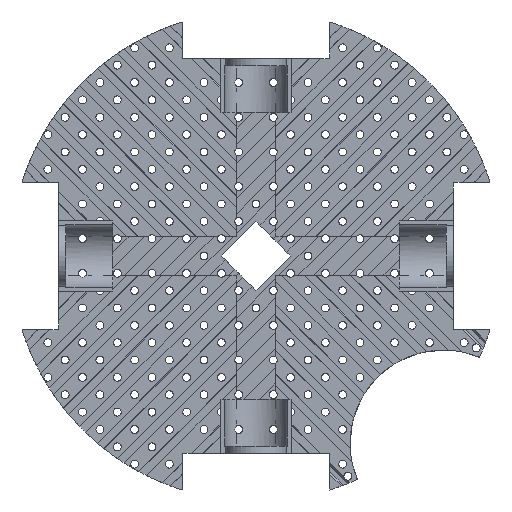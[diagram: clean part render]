
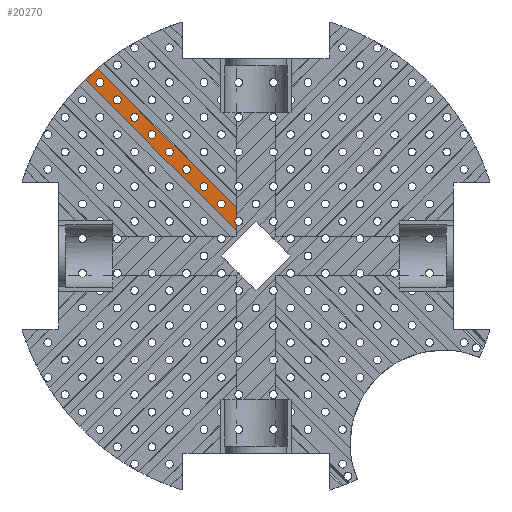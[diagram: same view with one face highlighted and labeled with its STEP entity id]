
A CAD part, front view. The second image highlights one B-rep face of the part: STEP entity #20270.
In plain terms, the highlighted planar face has unit normal (0, -1, 0).
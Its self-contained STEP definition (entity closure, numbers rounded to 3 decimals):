
#95=FACE_BOUND('',#2409,.T.);
#96=FACE_BOUND('',#2410,.T.);
#97=FACE_BOUND('',#2411,.T.);
#98=FACE_BOUND('',#2412,.T.);
#99=FACE_BOUND('',#2413,.T.);
#100=FACE_BOUND('',#2414,.T.);
#101=FACE_BOUND('',#2415,.T.);
#102=FACE_BOUND('',#2416,.T.);
#665=PLANE('',#21486);
#1412=FACE_OUTER_BOUND('',#2408,.T.);
#2408=EDGE_LOOP('',(#14727,#14728,#14729,#14730,#14731,#14732));
#2409=EDGE_LOOP('',(#14733));
#2410=EDGE_LOOP('',(#14734));
#2411=EDGE_LOOP('',(#14735));
#2412=EDGE_LOOP('',(#14736));
#2413=EDGE_LOOP('',(#14737));
#2414=EDGE_LOOP('',(#14738));
#2415=EDGE_LOOP('',(#14739));
#2416=EDGE_LOOP('',(#14740));
#3692=LINE('',#29494,#5618);
#3693=LINE('',#29499,#5619);
#3921=LINE('',#30437,#5847);
#3935=LINE('',#30472,#5861);
#5618=VECTOR('',#23422,10.);
#5619=VECTOR('',#23427,10.);
#5847=VECTOR('',#24179,10.);
#5861=VECTOR('',#24207,10.);
#7494=CIRCLE('',#21158,1.6);
#7495=CIRCLE('',#21160,1.6);
#7515=CIRCLE('',#21230,1.6);
#7529=CIRCLE('',#21251,1.6);
#7543=CIRCLE('',#21272,1.6);
#7557=CIRCLE('',#21293,1.6);
#7574=CIRCLE('',#21335,100.);
#7630=CIRCLE('',#21487,1.6);
#7631=CIRCLE('',#21488,1.6);
#7632=CIRCLE('',#21489,1.6);
#8685=VERTEX_POINT('',#29490);
#8686=VERTEX_POINT('',#29492);
#8687=VERTEX_POINT('',#29496);
#8688=VERTEX_POINT('',#29498);
#8690=VERTEX_POINT('',#29504);
#8691=VERTEX_POINT('',#29508);
#8763=VERTEX_POINT('',#29712);
#8778=VERTEX_POINT('',#29757);
#8792=VERTEX_POINT('',#29799);
#8806=VERTEX_POINT('',#29841);
#8960=VERTEX_POINT('',#30434);
#8975=VERTEX_POINT('',#30471);
#9050=VERTEX_POINT('',#30706);
#9051=VERTEX_POINT('',#30708);
#10764=EDGE_CURVE('',#8686,#8685,#3692,.T.);
#10766=EDGE_CURVE('',#8688,#8687,#3693,.T.);
#10770=EDGE_CURVE('',#8690,#8690,#7494,.T.);
#10772=EDGE_CURVE('',#8691,#8691,#7495,.T.);
#10872=EDGE_CURVE('',#8763,#8763,#7515,.T.);
#10895=EDGE_CURVE('',#8778,#8778,#7529,.T.);
#10916=EDGE_CURVE('',#8792,#8792,#7543,.T.);
#10937=EDGE_CURVE('',#8806,#8806,#7557,.T.);
#10998=EDGE_CURVE('',#8687,#8685,#7574,.T.);
#11154=EDGE_CURVE('',#8686,#8960,#3921,.T.);
#11172=EDGE_CURVE('',#8975,#8688,#3935,.T.);
#11292=EDGE_CURVE('',#8975,#8960,#7630,.T.);
#11293=EDGE_CURVE('',#9050,#9050,#7631,.T.);
#11294=EDGE_CURVE('',#9051,#9051,#7632,.T.);
#14727=ORIENTED_EDGE('',*,*,#11292,.F.);
#14728=ORIENTED_EDGE('',*,*,#11172,.T.);
#14729=ORIENTED_EDGE('',*,*,#10766,.T.);
#14730=ORIENTED_EDGE('',*,*,#10998,.T.);
#14731=ORIENTED_EDGE('',*,*,#10764,.F.);
#14732=ORIENTED_EDGE('',*,*,#11154,.T.);
#14733=ORIENTED_EDGE('',*,*,#10772,.F.);
#14734=ORIENTED_EDGE('',*,*,#10770,.F.);
#14735=ORIENTED_EDGE('',*,*,#10895,.F.);
#14736=ORIENTED_EDGE('',*,*,#10916,.F.);
#14737=ORIENTED_EDGE('',*,*,#10937,.F.);
#14738=ORIENTED_EDGE('',*,*,#11293,.F.);
#14739=ORIENTED_EDGE('',*,*,#10872,.F.);
#14740=ORIENTED_EDGE('',*,*,#11294,.F.);
#20270=ADVANCED_FACE('',(#1412,#95,#96,#97,#98,#99,#100,#101,#102),#665,
 .T.);
#21158=AXIS2_PLACEMENT_3D('',#29506,#23434,#23435);
#21160=AXIS2_PLACEMENT_3D('',#29510,#23439,#23440);
#21230=AXIS2_PLACEMENT_3D('',#29714,#23641,#23642);
#21251=AXIS2_PLACEMENT_3D('',#29759,#23692,#23693);
#21272=AXIS2_PLACEMENT_3D('',#29801,#23741,#23742);
#21293=AXIS2_PLACEMENT_3D('',#29843,#23790,#23791);
#21335=AXIS2_PLACEMENT_3D('',#29980,#23913,#23914);
#21486=AXIS2_PLACEMENT_3D('',#30704,#24426,#24427);
#21487=AXIS2_PLACEMENT_3D('',#30705,#24428,#24429);
#21488=AXIS2_PLACEMENT_3D('',#30707,#24430,#24431);
#21489=AXIS2_PLACEMENT_3D('',#30709,#24432,#24433);
#23422=DIRECTION('',(-0.707,0.,0.707));
#23427=DIRECTION('',(-0.707,0.,0.707));
#23434=DIRECTION('center_axis',(0.,-1.,0.));
#23435=DIRECTION('ref_axis',(-0.707,0.,-0.707));
#23439=DIRECTION('center_axis',(0.,-1.,0.));
#23440=DIRECTION('ref_axis',(-0.707,0.,-0.707));
#23641=DIRECTION('center_axis',(0.,-1.,0.));
#23642=DIRECTION('ref_axis',(-0.707,0.,-0.707));
#23692=DIRECTION('center_axis',(0.,-1.,0.));
#23693=DIRECTION('ref_axis',(-0.707,0.,-0.707));
#23741=DIRECTION('center_axis',(0.,-1.,0.));
#23742=DIRECTION('ref_axis',(-0.707,0.,-0.707));
#23790=DIRECTION('center_axis',(0.,-1.,0.));
#23791=DIRECTION('ref_axis',(-0.707,0.,-0.707));
#23913=DIRECTION('center_axis',(0.,-1.,0.));
#23914=DIRECTION('ref_axis',(0.707,0.,0.707));
#24179=DIRECTION('',(0.,0.,1.));
#24207=DIRECTION('',(0.,0.,1.));
#24426=DIRECTION('center_axis',(0.,-1.,0.));
#24427=DIRECTION('ref_axis',(0.707,0.,0.707));
#24428=DIRECTION('center_axis',(0.,-1.,0.));
#24429=DIRECTION('ref_axis',(-0.707,0.,-0.707));
#24430=DIRECTION('center_axis',(0.,-1.,0.));
#24431=DIRECTION('ref_axis',(-0.707,0.,-0.707));
#24432=DIRECTION('center_axis',(0.,-1.,0.));
#24433=DIRECTION('ref_axis',(-0.707,0.,-0.707));
#29490=CARTESIAN_POINT('',(-69.498,10.,71.903));
#29492=CARTESIAN_POINT('',(-8.,10.,10.404));
#29494=CARTESIAN_POINT('',(1.202,10.,1.202));
#29496=CARTESIAN_POINT('',(-64.598,10.,76.336));
#29498=CARTESIAN_POINT('',(-8.,10.,19.738));
#29499=CARTESIAN_POINT('',(5.869,10.,5.869));
#29504=CARTESIAN_POINT('',(-55.437,10.,64.771));
#29506=CARTESIAN_POINT('Origin',(-56.569,10.,63.64));
#29508=CARTESIAN_POINT('',(-62.508,10.,71.842));
#29510=CARTESIAN_POINT('Origin',(-63.64,10.,70.711));
#29712=CARTESIAN_POINT('',(-27.153,10.,36.487));
#29714=CARTESIAN_POINT('Origin',(-28.284,10.,35.355));
#29757=CARTESIAN_POINT('',(-34.224,10.,43.558));
#29759=CARTESIAN_POINT('Origin',(-35.355,10.,42.426));
#29799=CARTESIAN_POINT('',(-41.295,10.,50.629));
#29801=CARTESIAN_POINT('Origin',(-42.426,10.,49.497));
#29841=CARTESIAN_POINT('',(-48.366,10.,57.7));
#29843=CARTESIAN_POINT('Origin',(-49.497,10.,56.569));
#29980=CARTESIAN_POINT('Origin',(0.,10.,
0.));
#30434=CARTESIAN_POINT('',(-8.,10.,12.839));
#30437=CARTESIAN_POINT('',(-8.,10.,75.68));
#30471=CARTESIAN_POINT('',(-8.,10.,15.445));
#30472=CARTESIAN_POINT('',(-8.,10.,75.68));
#30704=CARTESIAN_POINT('Origin',(1.202,10.,1.202));
#30705=CARTESIAN_POINT('Origin',(-7.071,10.,14.142));
#30706=CARTESIAN_POINT('',(-20.082,10.,29.416));
#30707=CARTESIAN_POINT('Origin',(-21.213,10.,28.284));
#30708=CARTESIAN_POINT('',(-13.011,10.,22.345));
#30709=CARTESIAN_POINT('Origin',(-14.142,10.,21.213));
